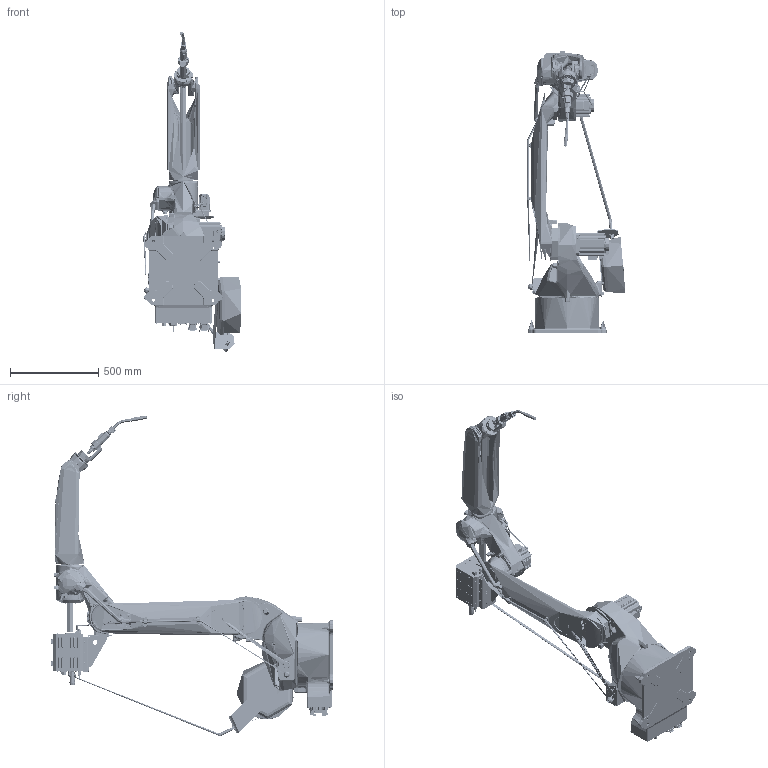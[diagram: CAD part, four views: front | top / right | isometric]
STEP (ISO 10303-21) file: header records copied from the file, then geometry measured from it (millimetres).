
FILE_DESCRIPTION (( 'STEP AP203' ), '1' );
FILE_NAME ('CRP-RH18B-06W.STEP', '2022-03-28T05:13:41', ( 'Microsoft' ), ( 'Microsoft' ), 'SwSTEP 2.0', 'SolidWorks 2016', '' );
FILE_SCHEMA (( 'CONFIG_CONTROL_DESIGN' ));
Length unit declared in the file: millimetre
Products named in the file (12): RH18B0700 奪盄婦; CR18B0500 苤旋郪璃; CR14B0803 爾Л; CR14B0801 爾佪攫郪璃; CRP-RH18B-06W; CR18B0300 湮旋郪璃; CR14B0603 藺傷楊擘2; CR18B0100 菁釱郪璃; CR18B0400 紵窒郪璃; CR18B0200 殈窒郪璃; CR14B0600 勂窒郪璃2; CR14B0802 冞佪儂
Assembly tree (11 placements, depth 2):
  CRP-RH18B-06W
    CR18B0100 菁釱郪璃
    CR18B0200 殈窒郪璃
    CR18B0300 湮旋郪璃
    CR18B0400 紵窒郪璃
    CR18B0500 苤旋郪璃
    CR14B0600 勂窒郪璃2
    CR14B0603 藺傷楊擘2
    CR14B0801 爾佪攫郪璃
    CR14B0802 冞佪儂
    CR14B0803 爾Л
    RH18B0700 奪盄婦
Bounding box: 559.89 x 1597.3 x 1812.86 mm (x, y, z)
Topology: 36 solids, 597 shells, 21546 faces, 56972 edges, 36419 vertices
Faces by surface type: plane 8360, cylinder 6633, bspline 3410, cone 1944, torus 989, sphere 210
Full cylindrical faces by diameter (mm): 2 x1
Entity records: 1220250 total; most frequent: CARTESIAN_POINT 712561, ORIENTED_EDGE 107275, DIRECTION 99603, EDGE_CURVE 56190, AXIS2_PLACEMENT_3D 36981, VERTEX_POINT 36417, LINE 25641, VECTOR 25641
